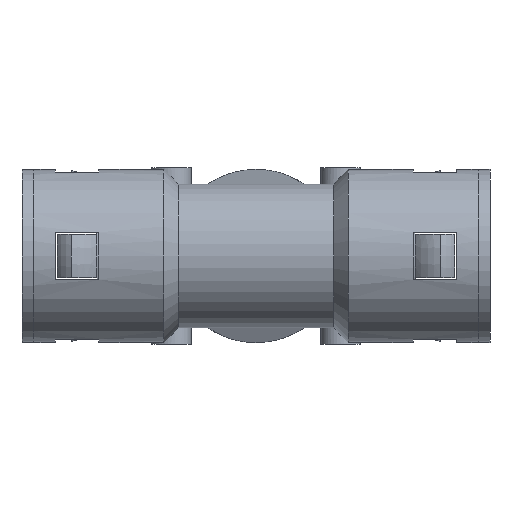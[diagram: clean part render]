
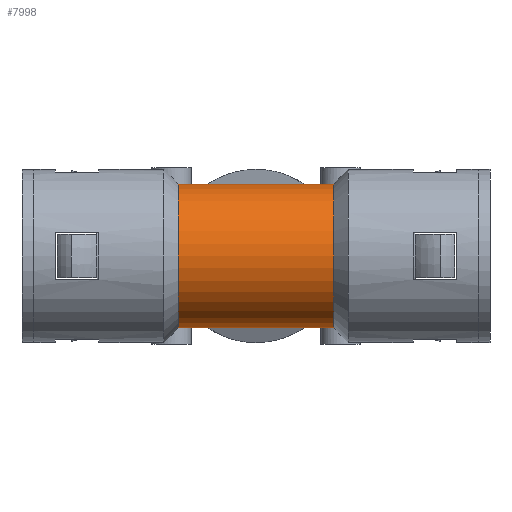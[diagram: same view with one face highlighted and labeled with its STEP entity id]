
A CAD part, front view. The second image highlights one B-rep face of the part: STEP entity #7998.
In plain terms, the highlighted cylindrical face has radius 18.25 mm (diameter 36.5 mm), a partial arc.
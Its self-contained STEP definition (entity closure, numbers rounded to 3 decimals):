
#48 = EDGE_CURVE ( 'NONE', #2631, #2626, #1434, .T. ) ;
#52 = EDGE_CURVE ( 'NONE', #2626, #2625, #1437, .T. ) ;
#53 = EDGE_CURVE ( 'NONE', #2631, #2630, #1439, .T. ) ;
#56 = EDGE_CURVE ( 'NONE', #2629, #2627, #1444, .T. ) ;
#58 = EDGE_CURVE ( 'NONE', #2624, #2623, #1446, .T. ) ;
#59 = EDGE_CURVE ( 'NONE', #2624, #2625, #1448, .T. ) ;
#60 = EDGE_CURVE ( 'NONE', #2627, #2623, #1452, .T. ) ;
#62 = EDGE_CURVE ( 'NONE', #2630, #2629, #1453, .T. ) ;
#263 = AXIS2_PLACEMENT_3D ( 'NONE', #2920, #2921, #2922 ) ;
#269 = AXIS2_PLACEMENT_3D ( 'NONE', #2972, #2973, #2974 ) ;
#1433 = VECTOR ( 'NONE', #2932, 1000. ) ;
#1434 = CIRCLE ( 'NONE', #263, 18.25 ) ;
#1437 = LINE ( 'NONE', #2927, #1433 ) ;
#1439 = LINE ( 'NONE', #2934, #1440 ) ;
#1440 = VECTOR ( 'NONE', #2935, 1000. ) ;
#1441 = VECTOR ( 'NONE', #2944, 1000. ) ;
#1444 = LINE ( 'NONE', #2937, #1441 ) ;
#1446 = LINE ( 'NONE', #2945, #1447 ) ;
#1447 = VECTOR ( 'NONE', #2969, 1000. ) ;
#1448 = LINE ( 'NONE', #2970, #1449 ) ;
#1449 = VECTOR ( 'NONE', #2971, 1000. ) ;
#1450 = VECTOR ( 'NONE', #2979, 1000. ) ;
#1452 = CIRCLE ( 'NONE', #269, 18.25 ) ;
#1453 = LINE ( 'NONE', #2942, #1450 ) ;
#2133 = EDGE_LOOP ( 'NONE', ( #10115, #10116, #10117, #10118, #10119, #10120, #10121, #10122 ) ) ;
#2623 = VERTEX_POINT ( 'NONE', #4195 ) ;
#2624 = VERTEX_POINT ( 'NONE', #4196 ) ;
#2625 = VERTEX_POINT ( 'NONE', #4197 ) ;
#2626 = VERTEX_POINT ( 'NONE', #4198 ) ;
#2627 = VERTEX_POINT ( 'NONE', #4199 ) ;
#2629 = VERTEX_POINT ( 'NONE', #4201 ) ;
#2630 = VERTEX_POINT ( 'NONE', #4202 ) ;
#2631 = VERTEX_POINT ( 'NONE', #4203 ) ;
#2920 = CARTESIAN_POINT ( 'NONE',  ( 19.75, 0., 0. ) ) ;
#2921 = DIRECTION ( 'NONE',  ( -1., 0., 0. ) ) ;
#2922 = DIRECTION ( 'NONE',  ( 0., 0., 1. ) ) ;
#2927 = CARTESIAN_POINT ( 'NONE',  ( -56.5, 0., 18.25 ) ) ;
#2932 = DIRECTION ( 'NONE',  ( -1., 0., 0. ) ) ;
#2934 = CARTESIAN_POINT ( 'NONE',  ( -56.5, 0., -18.25 ) ) ;
#2935 = DIRECTION ( 'NONE',  ( -1., 0., 0. ) ) ;
#2937 = CARTESIAN_POINT ( 'NONE',  ( -56.5, 0., -18.25 ) ) ;
#2942 = CARTESIAN_POINT ( 'NONE',  ( -56.5, 0., -18.25 ) ) ;
#2944 = DIRECTION ( 'NONE',  ( -1., 0., 0. ) ) ;
#2945 = CARTESIAN_POINT ( 'NONE',  ( -56.5, 0., 18.25 ) ) ;
#2969 = DIRECTION ( 'NONE',  ( -1., 0., 0. ) ) ;
#2970 = CARTESIAN_POINT ( 'NONE',  ( -56.5, 0., 18.25 ) ) ;
#2971 = DIRECTION ( 'NONE',  ( 1., 0., 0. ) ) ;
#2972 = CARTESIAN_POINT ( 'NONE',  ( -19.75, 0., 0. ) ) ;
#2973 = DIRECTION ( 'NONE',  ( -1., 0., 0. ) ) ;
#2974 = DIRECTION ( 'NONE',  ( 0., 0., 1. ) ) ;
#2979 = DIRECTION ( 'NONE',  ( -1., 0., 0. ) ) ;
#4195 = CARTESIAN_POINT ( 'NONE',  ( -19.75, 0., 18.25 ) ) ;
#4196 = CARTESIAN_POINT ( 'NONE',  ( -12.286, 0., 18.25 ) ) ;
#4197 = CARTESIAN_POINT ( 'NONE',  ( 12.286, 0., 18.25 ) ) ;
#4198 = CARTESIAN_POINT ( 'NONE',  ( 19.75, 0., 18.25 ) ) ;
#4199 = CARTESIAN_POINT ( 'NONE',  ( -19.75, 0., -18.25 ) ) ;
#4201 = CARTESIAN_POINT ( 'NONE',  ( -12.286, 0., -18.25 ) ) ;
#4202 = CARTESIAN_POINT ( 'NONE',  ( 12.286, 0., -18.25 ) ) ;
#4203 = CARTESIAN_POINT ( 'NONE',  ( 19.75, 0., -18.25 ) ) ;
#7974 = AXIS2_PLACEMENT_3D ( 'NONE', #8942, #8941, #8937 ) ;
#7998 = ADVANCED_FACE ( 'NONE', ( #8658 ), #8667, .T. ) ;
#8658 = FACE_OUTER_BOUND ( 'NONE', #2133, .T. ) ;
#8667 = CYLINDRICAL_SURFACE ( 'NONE', #7974, 18.25 ) ;
#8937 = DIRECTION ( 'NONE',  ( 0., 0., 1. ) ) ;
#8941 = DIRECTION ( 'NONE',  ( -1., 0., 0. ) ) ;
#8942 = CARTESIAN_POINT ( 'NONE',  ( -56.5, 0., 0. ) ) ;
#10115 = ORIENTED_EDGE ( 'NONE', *, *, #53, .F. ) ;
#10116 = ORIENTED_EDGE ( 'NONE', *, *, #48, .T. ) ;
#10117 = ORIENTED_EDGE ( 'NONE', *, *, #52, .T. ) ;
#10118 = ORIENTED_EDGE ( 'NONE', *, *, #59, .F. ) ;
#10119 = ORIENTED_EDGE ( 'NONE', *, *, #58, .T. ) ;
#10120 = ORIENTED_EDGE ( 'NONE', *, *, #60, .F. ) ;
#10121 = ORIENTED_EDGE ( 'NONE', *, *, #56, .F. ) ;
#10122 = ORIENTED_EDGE ( 'NONE', *, *, #62, .F. ) ;
